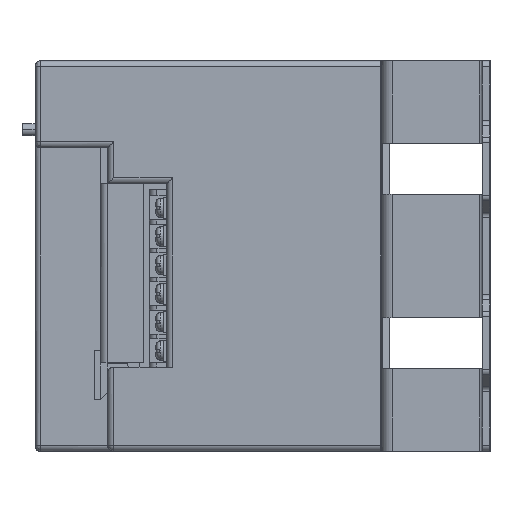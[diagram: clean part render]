
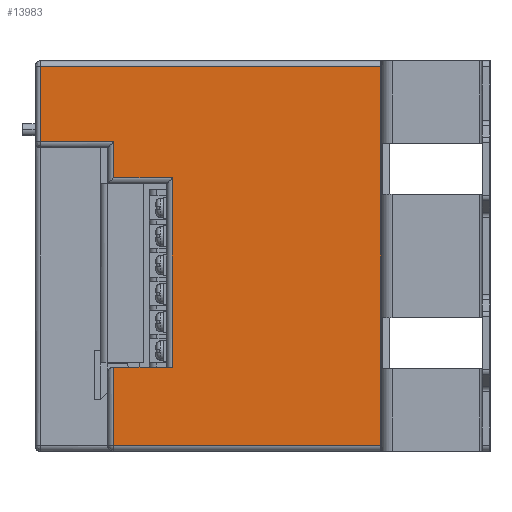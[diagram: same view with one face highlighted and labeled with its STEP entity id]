
A CAD part, left-side view. The second image highlights one B-rep face of the part: STEP entity #13983.
In plain terms, the highlighted planar face has unit normal (-1, 0, 0).
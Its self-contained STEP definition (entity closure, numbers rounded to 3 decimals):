
#209 = AXIS2_PLACEMENT_3D ( 'NONE', #11213, #17139, #3760 ) ;
#225 = VERTEX_POINT ( 'NONE', #939 ) ;
#442 = EDGE_CURVE ( 'NONE', #817, #1478, #3207, .T. ) ;
#633 = VECTOR ( 'NONE', #3966, 1000. ) ;
#774 = VECTOR ( 'NONE', #1182, 1000. ) ;
#817 = VERTEX_POINT ( 'NONE', #13967 ) ;
#939 = CARTESIAN_POINT ( 'NONE',  ( -194.269, 55.353, 71.607 ) ) ;
#1145 = LINE ( 'NONE', #7397, #9533 ) ;
#1182 = DIRECTION ( 'NONE',  ( 0., 0., 1. ) ) ;
#1473 = VERTEX_POINT ( 'NONE', #10367 ) ;
#1478 = VERTEX_POINT ( 'NONE', #1570 ) ;
#1555 = VERTEX_POINT ( 'NONE', #7738 ) ;
#1570 = CARTESIAN_POINT ( 'NONE',  ( -194.269, 55.353, 160.607 ) ) ;
#1675 = EDGE_CURVE ( 'NONE', #8152, #11613, #14055, .T. ) ;
#2655 = LINE ( 'NONE', #8624, #774 ) ;
#2659 = DIRECTION ( 'NONE',  ( 0., 0., 1. ) ) ;
#2945 = ORIENTED_EDGE ( 'NONE', *, *, #12670, .F. ) ;
#2952 = EDGE_CURVE ( 'NONE', #225, #4398, #2655, .T. ) ;
#3015 = CARTESIAN_POINT ( 'NONE',  ( -194.269, 81.353, 160.607 ) ) ;
#3207 = LINE ( 'NONE', #3015, #9465 ) ;
#3224 = VERTEX_POINT ( 'NONE', #10895 ) ;
#3760 = DIRECTION ( 'NONE',  ( 0., 0., -1. ) ) ;
#3966 = DIRECTION ( 'NONE',  ( 0., 0., 1. ) ) ;
#4398 = VERTEX_POINT ( 'NONE', #14023 ) ;
#5628 = DIRECTION ( 'NONE',  ( 0., 1., 0. ) ) ;
#5747 = VECTOR ( 'NONE', #18651, 1000. ) ;
#5772 = ORIENTED_EDGE ( 'NONE', *, *, #442, .F. ) ;
#5953 = VERTEX_POINT ( 'NONE', #12350 ) ;
#6393 = CARTESIAN_POINT ( 'NONE',  ( -194.269, 81.353, 71.607 ) ) ;
#6524 = EDGE_CURVE ( 'NONE', #1555, #817, #13406, .T. ) ;
#6761 = CARTESIAN_POINT ( 'NONE',  ( -194.269, 79.853, 69.607 ) ) ;
#7052 = LINE ( 'NONE', #6761, #16579 ) ;
#7397 = CARTESIAN_POINT ( 'NONE',  ( -194.269, 81.353, 172.607 ) ) ;
#7400 = DIRECTION ( 'NONE',  ( 0., 1., 0. ) ) ;
#7738 = CARTESIAN_POINT ( 'NONE',  ( -194.269, 35.753, 97.607 ) ) ;
#8061 = DIRECTION ( 'NONE',  ( 0., 0., 1. ) ) ;
#8152 = VERTEX_POINT ( 'NONE', #10453 ) ;
#8177 = CARTESIAN_POINT ( 'NONE',  ( -194.269, -33.647, 134.607 ) ) ;
#8513 = VECTOR ( 'NONE', #8061, 1000. ) ;
#8541 = LINE ( 'NONE', #18597, #16893 ) ;
#8624 = CARTESIAN_POINT ( 'NONE',  ( -194.269, 55.353, 69.607 ) ) ;
#8793 = ORIENTED_EDGE ( 'NONE', *, *, #2952, .F. ) ;
#8886 = EDGE_LOOP ( 'NONE', ( #13969, #18497, #5772, #11243, #18173, #8793, #2945, #14009, #18104, #9941 ) ) ;
#9110 = EDGE_CURVE ( 'NONE', #1473, #5953, #1145, .T. ) ;
#9421 = CARTESIAN_POINT ( 'NONE',  ( -194.269, 35.753, 69.607 ) ) ;
#9465 = VECTOR ( 'NONE', #7400, 1000. ) ;
#9500 = EDGE_CURVE ( 'NONE', #3224, #11613, #12562, .T. ) ;
#9533 = VECTOR ( 'NONE', #5628, 1000. ) ;
#9941 = ORIENTED_EDGE ( 'NONE', *, *, #10685, .F. ) ;
#10367 = CARTESIAN_POINT ( 'NONE',  ( -194.269, 55.353, 172.607 ) ) ;
#10425 = VECTOR ( 'NONE', #11065, 1000. ) ;
#10453 = CARTESIAN_POINT ( 'NONE',  ( -194.269, 79.853, 197.607 ) ) ;
#10685 = EDGE_CURVE ( 'NONE', #5953, #8152, #7052, .T. ) ;
#10895 = CARTESIAN_POINT ( 'NONE',  ( -194.269, -33.647, 71.607 ) ) ;
#11065 = DIRECTION ( 'NONE',  ( 0., -1., 0. ) ) ;
#11213 = CARTESIAN_POINT ( 'NONE',  ( -194.269, 81.353, 69.607 ) ) ;
#11243 = ORIENTED_EDGE ( 'NONE', *, *, #6524, .F. ) ;
#11387 = DIRECTION ( 'NONE',  ( 0., 0., 1. ) ) ;
#11613 = VERTEX_POINT ( 'NONE', #17512 ) ;
#12350 = CARTESIAN_POINT ( 'NONE',  ( -194.269, 79.853, 172.607 ) ) ;
#12384 = VECTOR ( 'NONE', #11387, 1000. ) ;
#12562 = LINE ( 'NONE', #8177, #633 ) ;
#12651 = FACE_OUTER_BOUND ( 'NONE', #8886, .T. ) ;
#12670 = EDGE_CURVE ( 'NONE', #3224, #225, #15635, .T. ) ;
#12818 = LINE ( 'NONE', #15674, #12384 ) ;
#13406 = LINE ( 'NONE', #9421, #8513 ) ;
#13967 = CARTESIAN_POINT ( 'NONE',  ( -194.269, 35.753, 160.607 ) ) ;
#13969 = ORIENTED_EDGE ( 'NONE', *, *, #9110, .F. ) ;
#13983 = ADVANCED_FACE ( 'NONE', ( #12651 ), #14205, .F. ) ;
#14009 = ORIENTED_EDGE ( 'NONE', *, *, #9500, .T. ) ;
#14023 = CARTESIAN_POINT ( 'NONE',  ( -194.269, 55.353, 97.607 ) ) ;
#14055 = LINE ( 'NONE', #18451, #10425 ) ;
#14205 = PLANE ( 'NONE',  #209 ) ;
#14487 = DIRECTION ( 'NONE',  ( 0., -1., 0. ) ) ;
#15635 = LINE ( 'NONE', #6393, #5747 ) ;
#15674 = CARTESIAN_POINT ( 'NONE',  ( -194.269, 55.353, 69.607 ) ) ;
#16579 = VECTOR ( 'NONE', #2659, 1000. ) ;
#16893 = VECTOR ( 'NONE', #14487, 1000. ) ;
#17139 = DIRECTION ( 'NONE',  ( 1., 0., 0. ) ) ;
#17512 = CARTESIAN_POINT ( 'NONE',  ( -194.269, -33.647, 197.607 ) ) ;
#18104 = ORIENTED_EDGE ( 'NONE', *, *, #1675, .F. ) ;
#18173 = ORIENTED_EDGE ( 'NONE', *, *, #18673, .F. ) ;
#18451 = CARTESIAN_POINT ( 'NONE',  ( -194.269, 81.353, 197.607 ) ) ;
#18497 = ORIENTED_EDGE ( 'NONE', *, *, #18601, .F. ) ;
#18597 = CARTESIAN_POINT ( 'NONE',  ( -194.269, 81.353, 97.607 ) ) ;
#18601 = EDGE_CURVE ( 'NONE', #1478, #1473, #12818, .T. ) ;
#18651 = DIRECTION ( 'NONE',  ( 0., 1., 0. ) ) ;
#18673 = EDGE_CURVE ( 'NONE', #4398, #1555, #8541, .T. ) ;
